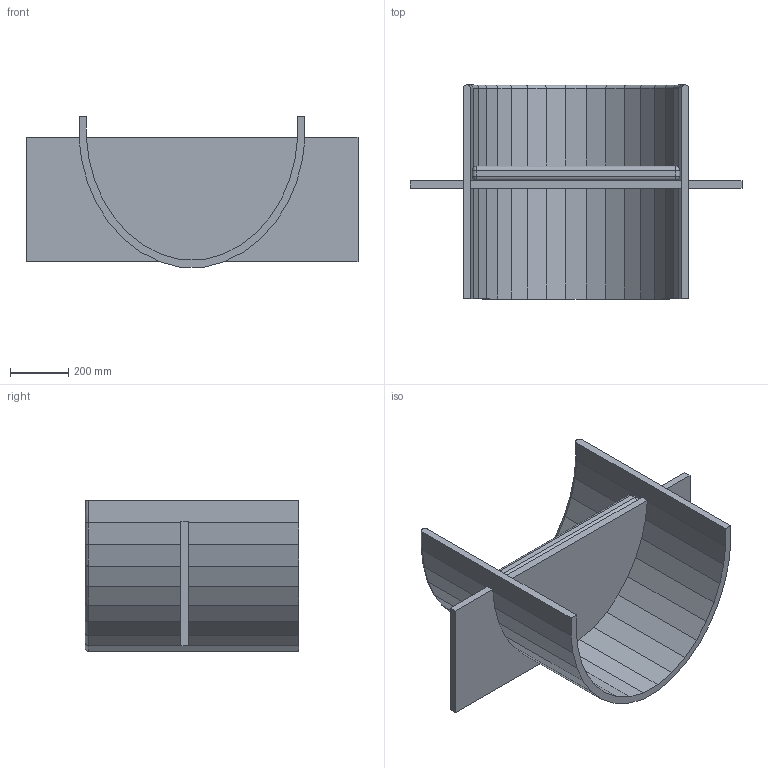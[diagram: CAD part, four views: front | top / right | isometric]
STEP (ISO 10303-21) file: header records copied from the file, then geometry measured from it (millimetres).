
FILE_DESCRIPTION (( 'STEP AP214' ), '1' );
FILE_NAME ('Sit Set Chair_Campagna_STP.STEP', '2021-04-12T15:48:09', ( '' ), ( '' ), 'SwSTEP 2.0', 'SolidWorks 2021', '' );
FILE_SCHEMA (( 'AUTOMOTIVE_DESIGN' ));
Length unit declared in the file: millimetre
Products named in the file (1): Sit Set Chair_Campagna_STP
Bounding box: 1143 x 736.6 x 518.94 mm (x, y, z)
Volume: 48991690.6 mm3; surface area: 3239515 mm2
Topology: 1 solids, 1 shells, 146 faces, 363 edges, 216 vertices
Faces by surface type: plane 95, cylinder 43, bspline 8
Entity records: 7343 total; most frequent: CARTESIAN_POINT 2460, ORIENTED_EDGE 718, DIRECTION 597, EDGE_CURVE 359, LINE 299, VECTOR 299, VERTEX_POINT 216, AXIS2_PLACEMENT_3D 149
